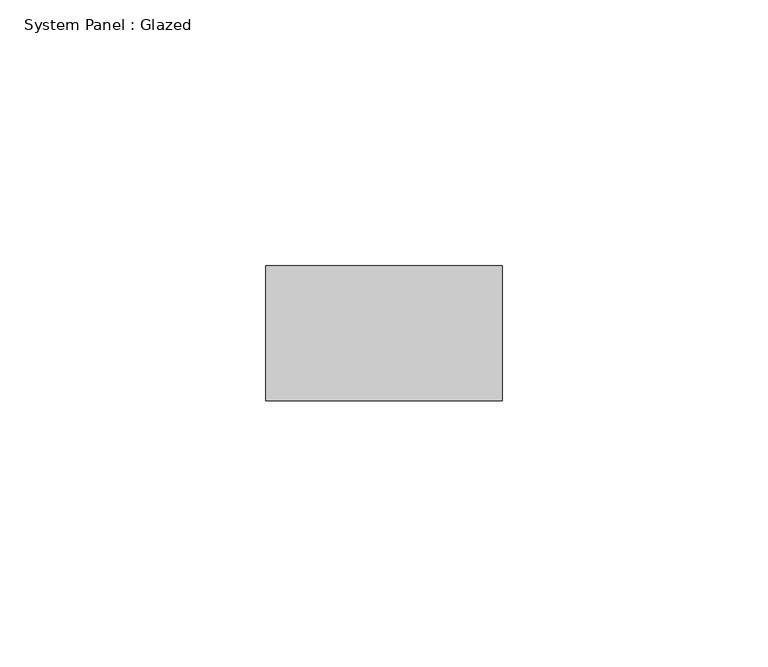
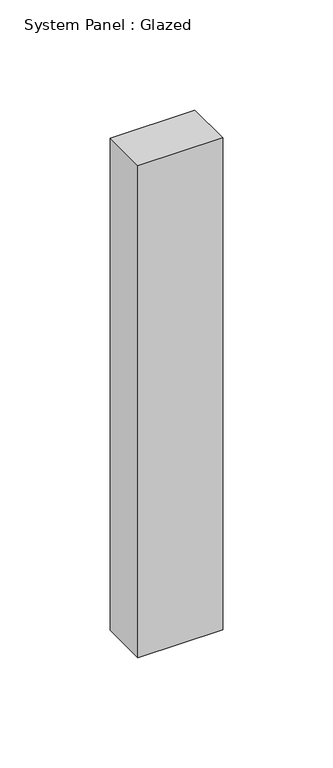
"""IFC4 building model written with IfcOpenShell, lengths in millimetres: plate geometry, System Panel : Glazed."""

from ifc_helpers import new_model, si_unit, origin, origin_with_axes, place, context, project, spatial, polyline, outline, extrude, source, transform, mapped, element, save


def system_panel_glazed_bb53e18c(model_context):
    return source(origin(), model_context, "Body", "SweptSolid", [
        extrude(outline(polyline([(22.225, 19.05), (-22.225, 19.05), (-22.225, 44.45), (22.225, 44.45), (22.225, 19.05)])), origin_with_axes(), (0.0, 0.0, 1.0), 273.05),
    ])


if __name__ == "__main__":
    model = new_model("IFC4")
    model_context = context("Model", 3, world=origin())
    ifc_project = project(units=[si_unit("LENGTHUNIT", "METRE", prefix="MILLI")], contexts=[model_context])
    site = spatial("IfcSite", under=ifc_project)
    building = spatial("IfcBuilding", under=site)
    placement = place(None, origin())
    system_panel_glazed_shape = system_panel_glazed_bb53e18c(model_context)
    element("IfcPlate", 1, ObjectType="System Panel : Glazed", at=placement, inside=building, context=model_context, shape_type="MappedRepresentation", body=[
        mapped(system_panel_glazed_shape, transform((0.0, 0.0, 0.0), x_axis=(1.0, 0.0, 0.0), y_axis=(0.0, 1.0, 0.0), z_axis=(0.0, 0.0, 1.0))),
    ])
    save(model, "model.ifc")
